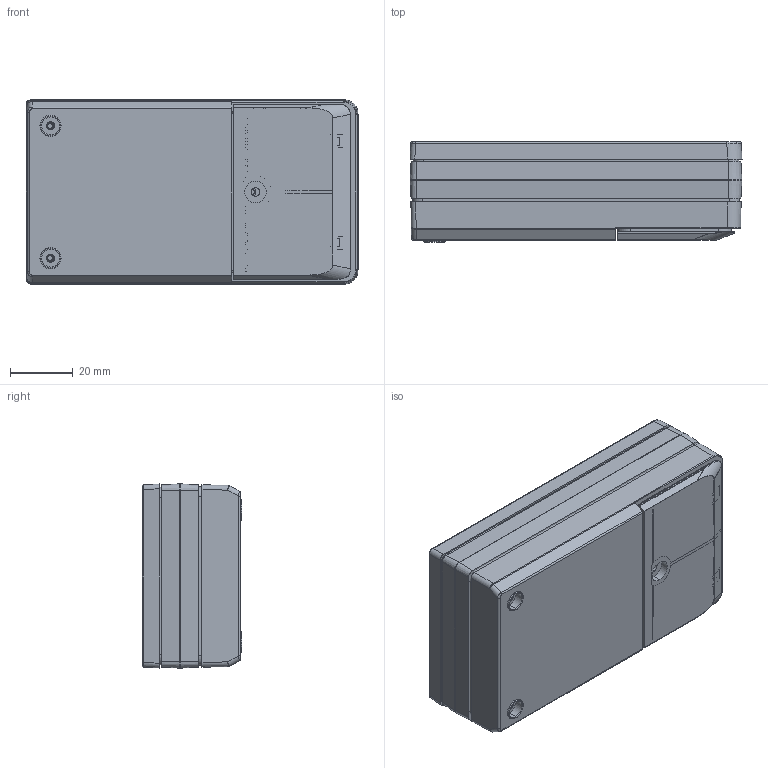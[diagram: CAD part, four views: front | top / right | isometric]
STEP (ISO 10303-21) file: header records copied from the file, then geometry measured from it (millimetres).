
FILE_DESCRIPTION (( 'STEP AP214' ), '1' );
FILE_NAME ('PBM-assem.STEP', '2019-10-25T15:07:42', ( 'Rudy' ), ( '' ), 'SwSTEP 2.0', 'SolidWorks 2014', '' );
FILE_SCHEMA (( 'AUTOMOTIVE_DESIGN' ));
Length unit declared in the file: inch
Products named in the file (5): PBM-bottom; PBM-assem; PBM-top; PBM-expander; PBM-door
Assembly tree (4 placements, depth 2):
  PBM-assem
    PBM-bottom
    PBM-door
    PBM-expander
    PBM-top
Bounding box: 105.47 x 31.75 x 58.55 mm (x, y, z)
Volume: 47225.1 mm3; surface area: 61934.8 mm2
Topology: 4 solids, 4 shells, 1765 faces, 4730 edges, 3117 vertices
Faces by surface type: plane 947, bspline 544, cylinder 203, cone 55, torus 16
Entity records: 79215 total; most frequent: CARTESIAN_POINT 37708, ORIENTED_EDGE 9456, DIRECTION 6534, EDGE_CURVE 4728, VERTEX_POINT 3117, LINE 3050, VECTOR 3050, EDGE_LOOP 1949
